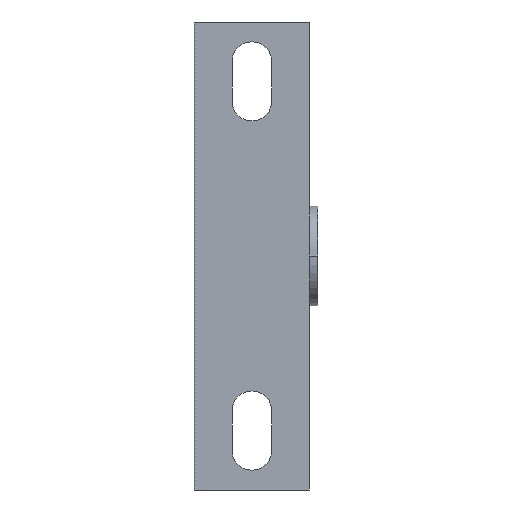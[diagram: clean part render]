
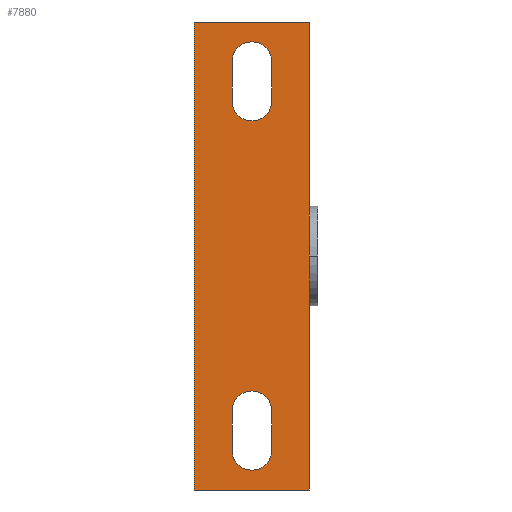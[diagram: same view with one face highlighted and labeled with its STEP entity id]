
A CAD part, front view. The second image highlights one B-rep face of the part: STEP entity #7880.
In plain terms, the highlighted planar face has unit normal (0, -1, 0).
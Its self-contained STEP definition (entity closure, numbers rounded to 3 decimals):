
#480=CARTESIAN_POINT('',(-5.5,-33.3,43.));
#490=VERTEX_POINT('VERTEX6221',#480);
#520=CARTESIAN_POINT('',(-5.5,-33.3,54.));
#530=DIRECTION('',(0.,0.,1.));
#540=VECTOR('',#530,1.);
#550=LINE('',#520,#540);
#560=CARTESIAN_POINT('',(-5.5,-33.3,54.));
#570=VERTEX_POINT('VERTEX6220',#560);
#580=EDGE_CURVE('EDGE9517',#490,#570,#550,.T.);
#880=CARTESIAN_POINT('',(5.5,-33.3,43.));
#890=VERTEX_POINT('VERTEX6223',#880);
#920=CARTESIAN_POINT('',(0.,-33.3,43.));
#930=DIRECTION('',(0.,1.,0.));
#940=DIRECTION('',(1.,0.,0.));
#950=AXIS2_PLACEMENT_3D('',#920,#930,#940);
#960=CIRCLE('',#950,5.5);
#970=EDGE_CURVE('EDGE9520',#890,#490,#960,.T.);
#1210=CARTESIAN_POINT('',(5.5,-33.3,54.));
#1220=VERTEX_POINT('VERTEX6225',#1210);
#1250=CARTESIAN_POINT('',(5.5,-33.3,59.5));
#1260=DIRECTION('',(0.,0.,-1.));
#1270=VECTOR('',#1260,1.);
#1280=LINE('',#1250,#1270);
#1290=EDGE_CURVE('EDGE9523',#1220,#890,#1280,.T.);
#1470=CARTESIAN_POINT('',(0.,-33.3,54.));
#1480=DIRECTION('',(0.,1.,0.));
#1490=DIRECTION('',(-1.,0.,0.));
#1500=AXIS2_PLACEMENT_3D('',#1470,#1480,#1490);
#1510=CIRCLE('',#1500,5.5);
#1520=EDGE_CURVE('EDGE9526',#570,#1220,#1510,.T.);
#2050=CARTESIAN_POINT('',(16.,-33.3,-65.));
#2060=VERTEX_POINT('',#2050);
#2090=CARTESIAN_POINT('',(16.,-33.3,0.));
#2100=DIRECTION('',(0.,0.,1.));
#2110=VECTOR('',#2100,1.);
#2120=LINE('',#2090,#2110);
#2130=CARTESIAN_POINT('',(16.,-33.3,65.));
#2140=VERTEX_POINT('',#2130);
#2150=EDGE_CURVE('',#2060,#2140,#2120,.T.);
#2490=CARTESIAN_POINT('',(5.5,-33.3,-54.));
#2500=VERTEX_POINT('VERTEX6240',#2490);
#2530=CARTESIAN_POINT('',(0.,-33.3,-54.));
#2540=DIRECTION('',(0.,1.,0.));
#2550=DIRECTION('',(1.,0.,0.));
#2560=AXIS2_PLACEMENT_3D('',#2530,#2540,#2550);
#2570=CIRCLE('',#2560,5.5);
#2580=CARTESIAN_POINT('',(-5.5,-33.3,-54.));
#2590=VERTEX_POINT('VERTEX6239',#2580);
#2600=EDGE_CURVE('EDGE9540',#2500,#2590,#2570,.T.);
#2860=CARTESIAN_POINT('',(-5.5,-33.3,5.5));
#2870=DIRECTION('',(0.,0.,1.));
#2880=VECTOR('',#2870,1.);
#2890=LINE('',#2860,#2880);
#2900=CARTESIAN_POINT('',(-5.5,-33.3,-43.));
#2910=VERTEX_POINT('VERTEX6242',#2900);
#2920=EDGE_CURVE('EDGE9544',#2590,#2910,#2890,.T.);
#3170=CARTESIAN_POINT('',(0.,-33.3,-43.));
#3180=DIRECTION('',(0.,1.,0.));
#3190=DIRECTION('',(-1.,0.,0.));
#3200=AXIS2_PLACEMENT_3D('',#3170,#3180,#3190);
#3210=CIRCLE('',#3200,5.5);
#3220=CARTESIAN_POINT('',(5.5,-33.3,-43.));
#3230=VERTEX_POINT('VERTEX6244',#3220);
#3240=EDGE_CURVE('EDGE9547',#2910,#3230,#3210,.T.);
#3500=CARTESIAN_POINT('',(5.5,-33.3,11.));
#3510=DIRECTION('',(0.,0.,-1.));
#3520=VECTOR('',#3510,1.);
#3530=LINE('',#3500,#3520);
#3540=EDGE_CURVE('EDGE9549',#3230,#2500,#3530,.T.);
#5920=CARTESIAN_POINT('',(-16.,-33.3,65.));
#5930=VERTEX_POINT('',#5920);
#5960=CARTESIAN_POINT('',(-16.,-33.3,0.));
#5970=DIRECTION('',(0.,0.,1.));
#5980=VECTOR('',#5970,1.);
#5990=LINE('',#5960,#5980);
#6000=CARTESIAN_POINT('',(-16.,-33.3,-65.));
#6010=VERTEX_POINT('',#6000);
#6020=EDGE_CURVE('',#6010,#5930,#5990,.T.);
#7070=CARTESIAN_POINT('',(0.,-33.3,65.));
#7080=DIRECTION('',(-1.,0.,0.));
#7090=VECTOR('',#7080,1.);
#7100=LINE('',#7070,#7090);
#7110=EDGE_CURVE('',#2140,#5930,#7100,.T.);
#7420=CARTESIAN_POINT('',(0.,-33.3,-65.));
#7430=DIRECTION('',(1.,0.,0.));
#7440=VECTOR('',#7430,1.);
#7450=LINE('',#7420,#7440);
#7460=EDGE_CURVE('',#6010,#2060,#7450,.T.);
#7650=CARTESIAN_POINT('',(16.,-33.3,65.));
#7660=DIRECTION('',(0.,-1.,0.));
#7670=DIRECTION('',(1.,0.,0.));
#7680=AXIS2_PLACEMENT_3D('',#7650,#7660,#7670);
#7690=PLANE('',#7680);
#7700=ORIENTED_EDGE('',*,*,#7110,.T.);
#7710=ORIENTED_EDGE('',*,*,#2150,.T.);
#7720=ORIENTED_EDGE('',*,*,#7460,.T.);
#7730=ORIENTED_EDGE('',*,*,#6020,.F.);
#7740=EDGE_LOOP('',(#7730,#7720,#7710,#7700));
#7750=FACE_OUTER_BOUND('',#7740,.T.);
#7760=ORIENTED_EDGE('',*,*,#3240,.T.);
#7770=ORIENTED_EDGE('',*,*,#2920,.T.);
#7780=ORIENTED_EDGE('',*,*,#2600,.T.);
#7790=ORIENTED_EDGE('',*,*,#3540,.T.);
#7800=EDGE_LOOP('',(#7790,#7780,#7770,#7760));
#7810=FACE_BOUND('',#7800,.T.);
#7820=ORIENTED_EDGE('',*,*,#580,.T.);
#7830=ORIENTED_EDGE('',*,*,#970,.T.);
#7840=ORIENTED_EDGE('',*,*,#1290,.T.);
#7850=ORIENTED_EDGE('',*,*,#1520,.T.);
#7860=EDGE_LOOP('',(#7850,#7840,#7830,#7820));
#7870=FACE_BOUND('',#7860,.T.);
#7880=ADVANCED_FACE('',(#7750,#7810,#7870),#7690,.T.);
